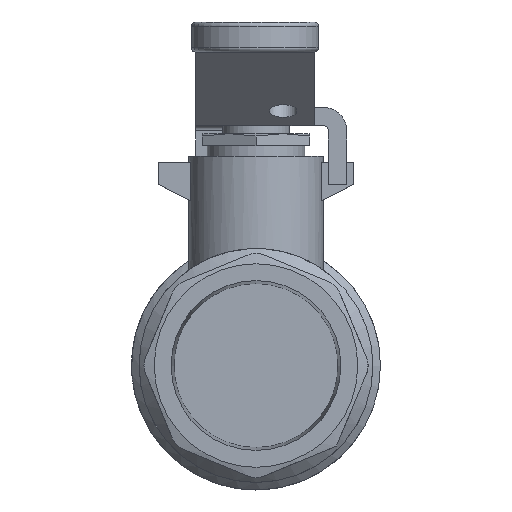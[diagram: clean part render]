
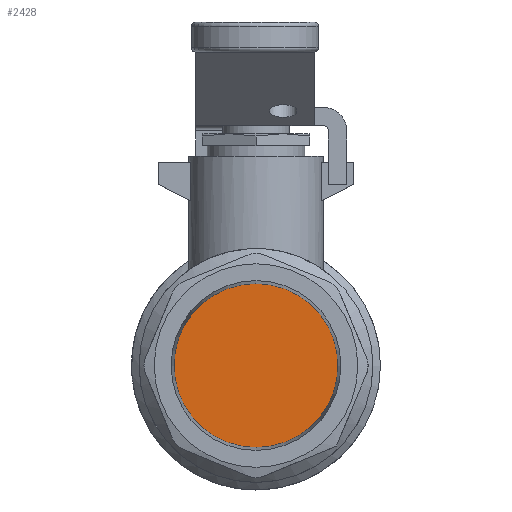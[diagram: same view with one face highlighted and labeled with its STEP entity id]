
A CAD part, left-side view. The second image highlights one B-rep face of the part: STEP entity #2428.
In plain terms, the highlighted free-form (B-spline) face has degree [1, 1] with [2, 2] control points.
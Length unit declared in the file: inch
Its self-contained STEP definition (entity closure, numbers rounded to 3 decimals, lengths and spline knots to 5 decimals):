
#2412=CARTESIAN_POINT('',(0.5533,0.47746,0.47746));
#2413=CARTESIAN_POINT('',(0.5533,-0.47746,0.47746));
#2414=CARTESIAN_POINT('',(0.5533,0.47746,-0.47746));
#2415=CARTESIAN_POINT('',(0.5533,-0.47746,-0.47746));
#2416=B_SPLINE_SURFACE_WITH_KNOTS('',1,1,((#2412,#2414),(#2413,#2415)),.UNSPECIFIED.,.F.,.F.,.U.,(2,2),(2,2),(0.0,0.95492),(0.0,0.95492),.UNSPECIFIED.);
#2417=CARTESIAN_POINT('',(0.5533,0.47746,0.));
#2418=VERTEX_POINT('',#2417);
#2419=CARTESIAN_POINT('',(0.5533,0.0,0.));
#2420=DIRECTION('',(1.0,0.0,0.0));
#2421=DIRECTION('',(0.0,1.0,0.0));
#2422=AXIS2_PLACEMENT_3D('',#2419,#2420,#2421);
#2423=CIRCLE('',#2422,0.47746);
#2424=EDGE_CURVE('',#2418,#2418,#2423,.T.);
#2425=ORIENTED_EDGE('',*,*,#2424,.F.);
#2426=EDGE_LOOP('',(#2425));
#2427=FACE_OUTER_BOUND('',#2426,.T.);
#2428=ADVANCED_FACE('',(#2427),#2416,.F.);
